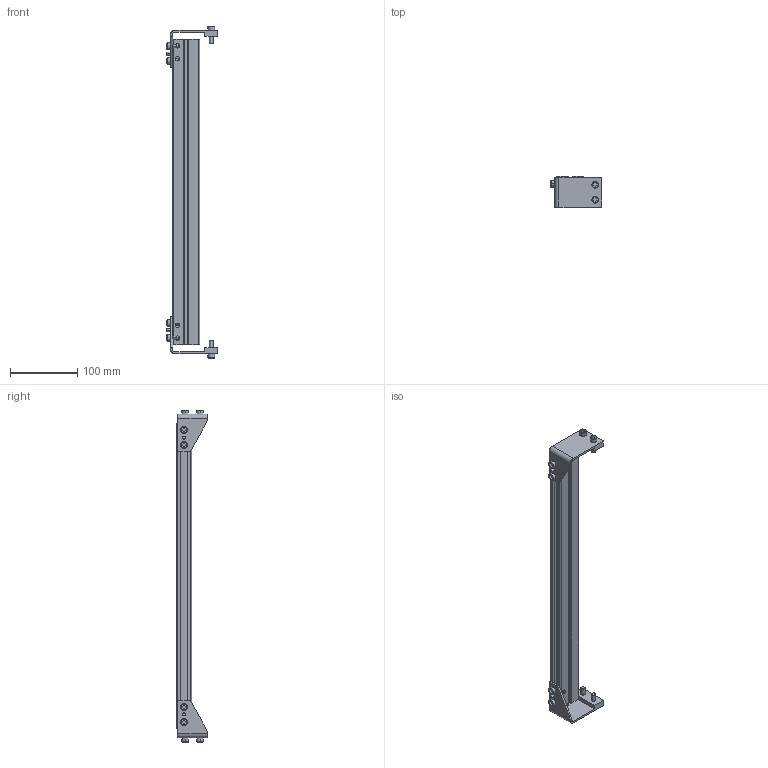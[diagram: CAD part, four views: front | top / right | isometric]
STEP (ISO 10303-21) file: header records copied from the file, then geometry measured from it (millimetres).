
FILE_DESCRIPTION((''),'2;1');
FILE_NAME('3076WWM_2_ASM','2023-03-15T',('jenni.wallner'),(''),'PRO/ENGINEER BY PARAMETRIC TECHNOLOGY CORPORATION, 2012420','PRO/ENGINEER BY PARAMETRIC TECHNOLOGY CORPORATION, 2012420','');
FILE_SCHEMA(('CONFIG_CONTROL_DESIGN'));
Length unit declared in the file: inch
Products named in the file (4): 677721_1; BRACKET_L; BRACKET_R; 3076WWM_2_ASM
Assembly tree (3 placements, depth 2):
  3076WWM_2_ASM
    677721_1
    BRACKET_L
    BRACKET_R
Bounding box: 76.2 x 46.13 x 494.02 mm (x, y, z)
Volume: 229484 mm3; surface area: 139074.4 mm2
Topology: 3 solids, 3 shells, 296 faces, 730 edges, 476 vertices
Faces by surface type: plane 188, cylinder 76, cone 32
Entity records: 8834 total; most frequent: DIRECTION 1520, CARTESIAN_POINT 1509, ORIENTED_EDGE 1460, EDGE_CURVE 730, VECTOR 546, LINE 546, AXIS2_PLACEMENT_3D 487, VERTEX_POINT 476
